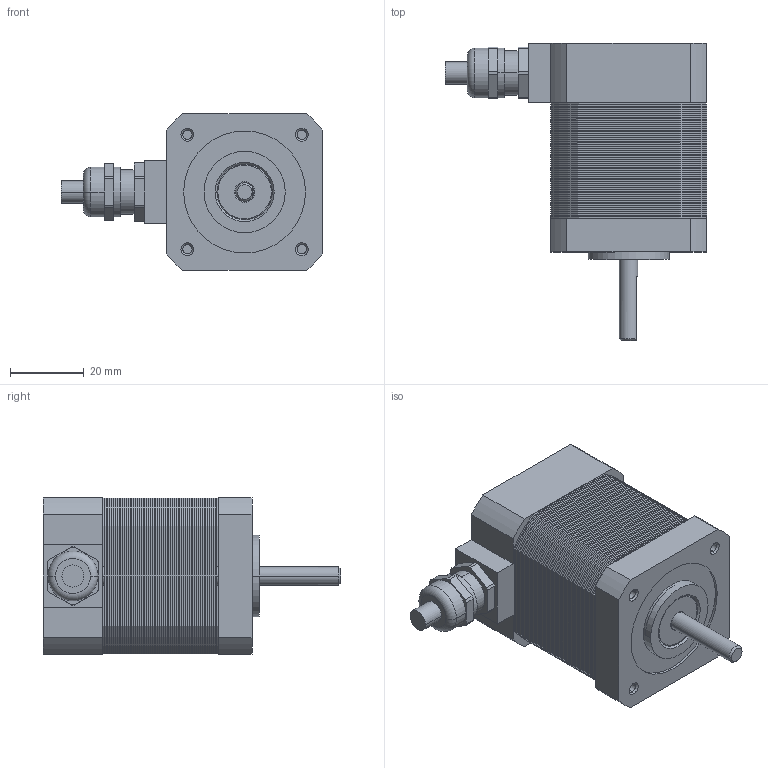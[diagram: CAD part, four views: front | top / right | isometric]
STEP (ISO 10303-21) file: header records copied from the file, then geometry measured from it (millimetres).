
FILE_DESCRIPTION((''),'2;1');
FILE_NAME('3_1_01_042_1842_SW0002','2021-11-29T10:15:15',('yangle'),(''),'CREO PARAMETRIC BY PTC INC, 2017110','CREO PARAMETRIC BY PTC INC, 2017110','');
FILE_SCHEMA(('CONFIG_CONTROL_DESIGN'));
Length unit declared in the file: millimetre
Products named in the file (1): 3_1_01_042_1842_SW0002
Bounding box: 70.8 x 80.5 x 42.3 mm (x, y, z)
Surface area: 16346.4 mm2 (no closed solid volume)
Topology: 0 solids, 76 shells, 682 faces, 2120 edges, 1430 vertices
Faces by surface type: plane 350, cylinder 306, cone 12, sphere 8, torus 6
Entity records: 23026 total; most frequent: CARTESIAN_POINT 4451, DIRECTION 4202, ORIENTED_EDGE 3010, EDGE_CURVE 2120, VERTEX_POINT 1430, AXIS2_PLACEMENT_3D 1418, VECTOR 1366, LINE 1366
